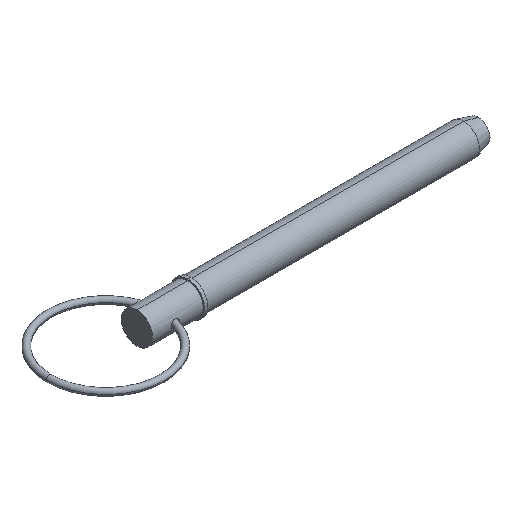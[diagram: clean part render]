
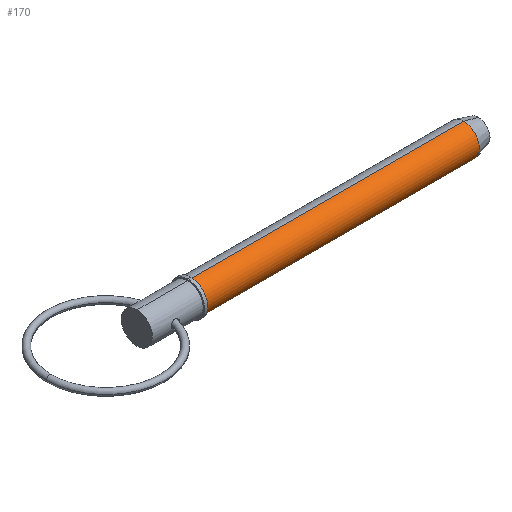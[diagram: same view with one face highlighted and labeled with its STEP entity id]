
A CAD part, isometric view. The second image highlights one B-rep face of the part: STEP entity #170.
In plain terms, the highlighted cylindrical face has radius 7.94 mm (diameter 15.88 mm), a partial arc.
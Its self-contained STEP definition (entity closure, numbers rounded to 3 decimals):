
#7 = DIRECTION ( 'NONE',  ( 1., 0., 0. ) ) ;
#11 = EDGE_CURVE ( 'NONE', #381, #47, #583, .T. ) ;
#47 = VERTEX_POINT ( 'NONE', #402 ) ;
#86 = ORIENTED_EDGE ( 'NONE', *, *, #257, .T. ) ;
#170 = ADVANCED_FACE ( 'NONE', ( #509 ), #589, .T. ) ;
#182 = CARTESIAN_POINT ( 'NONE',  ( 27.31, 0., -7.94 ) ) ;
#210 = DIRECTION ( 'NONE',  ( 0., 0., -1. ) ) ;
#241 = AXIS2_PLACEMENT_3D ( 'NONE', #282, #279, #936 ) ;
#253 = DIRECTION ( 'NONE',  ( 1., 0., 0. ) ) ;
#257 = EDGE_CURVE ( 'NONE', #381, #868, #367, .T. ) ;
#258 = LINE ( 'NONE', #643, #341 ) ;
#267 = CARTESIAN_POINT ( 'NONE',  ( 0., 0., 0. ) ) ;
#275 = AXIS2_PLACEMENT_3D ( 'NONE', #1019, #302, #210 ) ;
#279 = DIRECTION ( 'NONE',  ( 1., 0., 0. ) ) ;
#282 = CARTESIAN_POINT ( 'NONE',  ( 165.952, 0., 0. ) ) ;
#302 = DIRECTION ( 'NONE',  ( 1., 0., 0. ) ) ;
#324 = CARTESIAN_POINT ( 'NONE',  ( 27.31, 0., 7.94 ) ) ;
#341 = VECTOR ( 'NONE', #253, 1000. ) ;
#367 = CIRCLE ( 'NONE', #275, 7.94 ) ;
#381 = VERTEX_POINT ( 'NONE', #324 ) ;
#387 = ORIENTED_EDGE ( 'NONE', *, *, #11, .F. ) ;
#402 = CARTESIAN_POINT ( 'NONE',  ( 165.952, 0., 7.94 ) ) ;
#497 = VECTOR ( 'NONE', #7, 1000. ) ;
#500 = DIRECTION ( 'NONE',  ( 0., 0., -1. ) ) ;
#509 = FACE_OUTER_BOUND ( 'NONE', #1022, .T. ) ;
#524 = ORIENTED_EDGE ( 'NONE', *, *, #685, .F. ) ;
#583 = LINE ( 'NONE', #730, #497 ) ;
#589 = CYLINDRICAL_SURFACE ( 'NONE', #1043, 7.94 ) ;
#594 = CARTESIAN_POINT ( 'NONE',  ( 165.952, 0., -7.94 ) ) ;
#643 = CARTESIAN_POINT ( 'NONE',  ( 0., 0., -7.94 ) ) ;
#685 = EDGE_CURVE ( 'NONE', #47, #1051, #850, .T. ) ;
#730 = CARTESIAN_POINT ( 'NONE',  ( 0., 0., 7.94 ) ) ;
#783 = EDGE_CURVE ( 'NONE', #868, #1051, #258, .T. ) ;
#836 = DIRECTION ( 'NONE',  ( 1., 0., 0. ) ) ;
#850 = CIRCLE ( 'NONE', #241, 7.94 ) ;
#868 = VERTEX_POINT ( 'NONE', #182 ) ;
#936 = DIRECTION ( 'NONE',  ( 0., 0., -1. ) ) ;
#1019 = CARTESIAN_POINT ( 'NONE',  ( 27.31, 0., 0. ) ) ;
#1022 = EDGE_LOOP ( 'NONE', ( #387, #86, #1031, #524 ) ) ;
#1031 = ORIENTED_EDGE ( 'NONE', *, *, #783, .T. ) ;
#1043 = AXIS2_PLACEMENT_3D ( 'NONE', #267, #836, #500 ) ;
#1051 = VERTEX_POINT ( 'NONE', #594 ) ;
